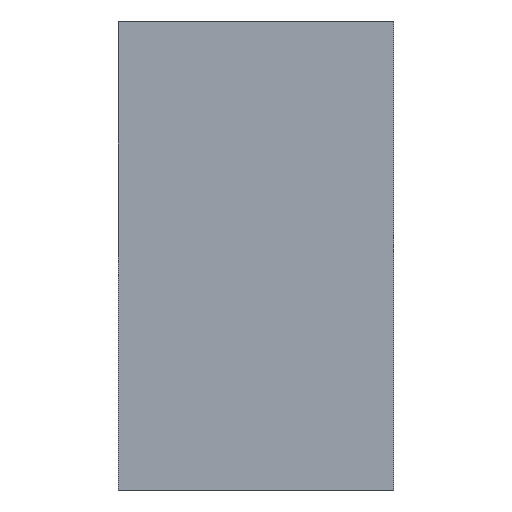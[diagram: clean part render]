
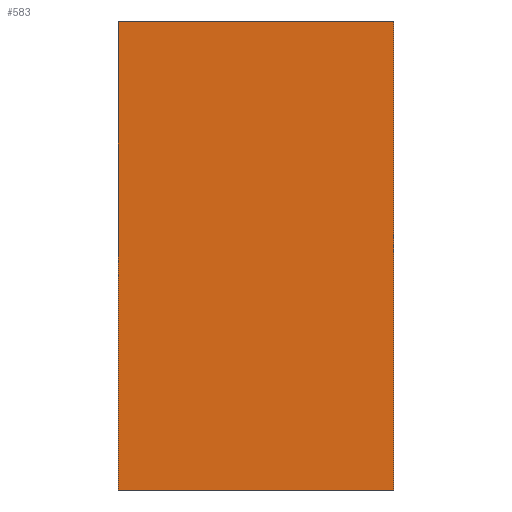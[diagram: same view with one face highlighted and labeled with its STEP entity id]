
A CAD part, left-side view. The second image highlights one B-rep face of the part: STEP entity #583.
In plain terms, the highlighted planar face has unit normal (-1, 0, 0).
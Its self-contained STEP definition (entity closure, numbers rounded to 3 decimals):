
#18=DIRECTION('',(0.,0.,1.));
#19=VECTOR('',#18,17.);
#20=CARTESIAN_POINT('',(-75.,0.,-8.5));
#21=LINE('',#20,#19);
#110=DIRECTION('',(0.,1.,0.));
#111=VECTOR('',#110,10.);
#112=CARTESIAN_POINT('',(-75.,0.,-8.5));
#113=LINE('',#112,#111);
#118=DIRECTION('',(0.,0.,1.));
#119=VECTOR('',#118,17.);
#120=CARTESIAN_POINT('',(-75.,10.,-8.5));
#121=LINE('',#120,#119);
#210=DIRECTION('',(0.,1.,0.));
#211=VECTOR('',#210,10.);
#212=CARTESIAN_POINT('',(-75.,0.,8.5));
#213=LINE('',#212,#211);
#382=CARTESIAN_POINT('',(-75.,0.,-8.5));
#383=CARTESIAN_POINT('',(-75.,0.,8.5));
#384=VERTEX_POINT('',#382);
#385=VERTEX_POINT('',#383);
#390=CARTESIAN_POINT('',(-75.,10.,-8.5));
#391=CARTESIAN_POINT('',(-75.,10.,8.5));
#392=VERTEX_POINT('',#390);
#393=VERTEX_POINT('',#391);
#569=CARTESIAN_POINT('',(-75.,0.,-8.5));
#570=DIRECTION('',(-1.,0.,0.));
#571=DIRECTION('',(0.,0.,1.));
#572=AXIS2_PLACEMENT_3D('',#569,#570,#571);
#573=PLANE('',#572);
#574=ORIENTED_EDGE('',*,*,#515,.F.);
#576=ORIENTED_EDGE('',*,*,#575,.T.);
#578=ORIENTED_EDGE('',*,*,#577,.T.);
#580=ORIENTED_EDGE('',*,*,#579,.F.);
#581=EDGE_LOOP('',(#574,#576,#578,#580));
#582=FACE_OUTER_BOUND('',#581,.F.);
#583=ADVANCED_FACE('',(#582),#573,.T.);
#515=EDGE_CURVE('',#384,#385,#21,.T.);
#575=EDGE_CURVE('',#384,#392,#113,.T.);
#577=EDGE_CURVE('',#392,#393,#121,.T.);
#579=EDGE_CURVE('',#385,#393,#213,.T.);
